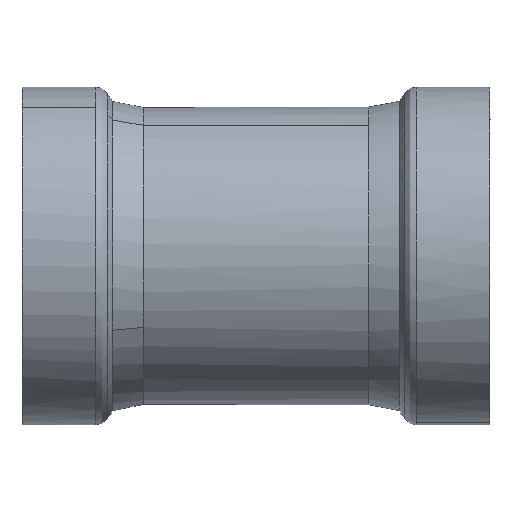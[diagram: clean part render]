
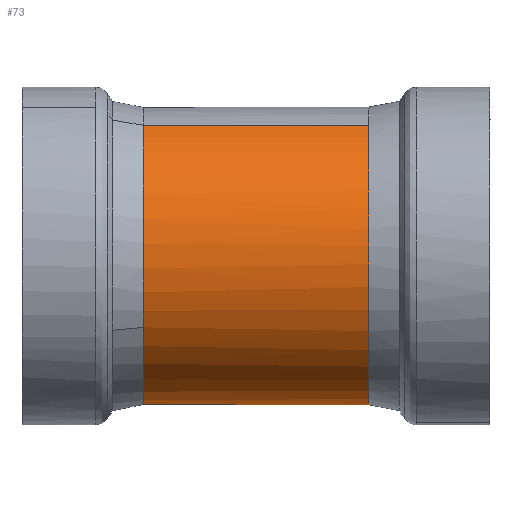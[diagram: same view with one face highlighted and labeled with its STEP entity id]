
A CAD part, front view. The second image highlights one B-rep face of the part: STEP entity #73.
In plain terms, the highlighted free-form (B-spline) face has degree [1, 2] with [2, 9] control points.
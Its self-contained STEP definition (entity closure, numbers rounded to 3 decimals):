
#73=ADVANCED_FACE('',(#157),#158,.T.);
#157=FACE_OUTER_BOUND('',#520,.T.);
#158=(B_SPLINE_SURFACE(1,2,((#522,#523,#524,#525,#526,#527,#528,#529,#530),(#531,#532,#533,#534,#535,#536,#537,#538,#539)),.UNSPECIFIED.,.F.,.T.,.F.)B_SPLINE_SURFACE_WITH_KNOTS((2,2),(3,2,2,2,3),(-0.134,1.381),(0.0,54.978,109.956,164.934,219.911),.UNSPECIFIED.)RATIONAL_B_SPLINE_SURFACE(((1.0,0.707,1.0,0.707,1.0,0.707,1.0,0.707,1.0),(1.0,0.707,1.0,0.707,1.0,0.707,1.0,0.707,1.0)))BOUNDED_SURFACE()REPRESENTATION_ITEM('')GEOMETRIC_REPRESENTATION_ITEM()SURFACE());
#520=EDGE_LOOP('',(#1046,#1047,#1048,#1049,#1050,#1051));
#522=CARTESIAN_POINT('',(-26.512,16.78,-30.715));
#523=CARTESIAN_POINT('',(-26.512,-13.935,-47.495));
#524=CARTESIAN_POINT('',(-26.512,-30.715,-16.78));
#525=CARTESIAN_POINT('',(-26.512,-47.495,13.935));
#526=CARTESIAN_POINT('',(-26.512,-16.78,30.715));
#527=CARTESIAN_POINT('',(-26.512,13.935,47.495));
#528=CARTESIAN_POINT('',(-26.512,30.715,16.78));
#529=CARTESIAN_POINT('',(-26.512,47.495,-13.935));
#530=CARTESIAN_POINT('',(-26.512,16.78,-30.715));
#531=CARTESIAN_POINT('',(26.512,16.78,-30.715));
#532=CARTESIAN_POINT('',(26.512,-13.935,-47.495));
#533=CARTESIAN_POINT('',(26.512,-30.715,-16.78));
#534=CARTESIAN_POINT('',(26.512,-47.495,13.935));
#535=CARTESIAN_POINT('',(26.512,-16.78,30.715));
#536=CARTESIAN_POINT('',(26.512,13.935,47.495));
#537=CARTESIAN_POINT('',(26.512,30.715,16.78));
#538=CARTESIAN_POINT('',(26.512,47.495,-13.935));
#539=CARTESIAN_POINT('',(26.512,16.78,-30.715));
#1046=ORIENTED_EDGE('',*,*,#1198,.T.);
#1047=ORIENTED_EDGE('',*,*,#1190,.T.);
#1048=ORIENTED_EDGE('',*,*,#1218,.T.);
#1049=ORIENTED_EDGE('',*,*,#1201,.T.);
#1050=ORIENTED_EDGE('',*,*,#1219,.T.);
#1051=ORIENTED_EDGE('',*,*,#1220,.T.);
#1190=EDGE_CURVE('',#1312,#1316,#1318,.T.);
#1198=EDGE_CURVE('',#1330,#1312,#1331,.T.);
#1201=EDGE_CURVE('',#1336,#1334,#1337,.T.);
#1218=EDGE_CURVE('',#1316,#1336,#1361,.T.);
#1219=EDGE_CURVE('',#1334,#1362,#1363,.T.);
#1220=EDGE_CURVE('',#1362,#1330,#1364,.T.);
#1312=VERTEX_POINT('',#1656);
#1316=VERTEX_POINT('',#1676);
#1318=(B_SPLINE_CURVE(2,(#1680,#1681,#1682,#1683,#1684,#1685,#1686),.UNSPECIFIED.,.F.,.F.)B_SPLINE_CURVE_WITH_KNOTS((3,2,2,3),(-3.142,-1.571,0.,1.571),.UNSPECIFIED.)RATIONAL_B_SPLINE_CURVE((1.0,0.707,1.0,0.707,1.0,0.707,1.0))BOUNDED_CURVE()REPRESENTATION_ITEM('')GEOMETRIC_REPRESENTATION_ITEM()CURVE());
#1330=VERTEX_POINT('',#1739);
#1331=B_SPLINE_CURVE_WITH_KNOTS('',1,(#1740,#1741),.UNSPECIFIED.,.F.,.F.,(2,2),(-1.381,0.134),.UNSPECIFIED.);
#1334=VERTEX_POINT('',#1757);
#1336=VERTEX_POINT('',#1772);
#1337=B_SPLINE_CURVE_WITH_KNOTS('',1,(#1773,#1774),.UNSPECIFIED.,.F.,.F.,(2,2),(-0.134,1.381),.UNSPECIFIED.);
#1361=(B_SPLINE_CURVE(2,(#1923,#1924,#1925,#1926,#1927,#1928,#1929),.UNSPECIFIED.,.F.,.F.)B_SPLINE_CURVE_WITH_KNOTS((3,2,2,3),(-3.142,-1.571,0.,1.571),.UNSPECIFIED.)RATIONAL_B_SPLINE_CURVE((1.0,0.707,1.0,0.707,1.0,0.707,1.0))BOUNDED_CURVE()REPRESENTATION_ITEM('')GEOMETRIC_REPRESENTATION_ITEM()CURVE());
#1362=VERTEX_POINT('',#1936);
#1363=(B_SPLINE_CURVE(2,(#1938,#1939,#1940,#1941,#1942),.UNSPECIFIED.,.F.,.F.)B_SPLINE_CURVE_WITH_KNOTS((3,2,3),(0.886,2.014,3.142),.UNSPECIFIED.)RATIONAL_B_SPLINE_CURVE((1.0,0.845,1.0,0.845,1.0))BOUNDED_CURVE()REPRESENTATION_ITEM('')GEOMETRIC_REPRESENTATION_ITEM()CURVE());
#1364=(B_SPLINE_CURVE(2,(#1950,#1951,#1952,#1953,#1954,#1955,#1956),.UNSPECIFIED.,.F.,.F.)B_SPLINE_CURVE_WITH_KNOTS((3,2,2,3),(-3.142,-1.799,-0.456,0.886),.UNSPECIFIED.)RATIONAL_B_SPLINE_CURVE((1.0,0.783,1.0,0.783,1.0,0.783,1.0))BOUNDED_CURVE()REPRESENTATION_ITEM('')GEOMETRIC_REPRESENTATION_ITEM()CURVE());
#1656=CARTESIAN_POINT('',(-26.512,-16.78,30.715));
#1676=CARTESIAN_POINT('',(-26.512,-30.715,-16.78));
#1680=CARTESIAN_POINT('',(-26.512,30.715,16.78));
#1681=CARTESIAN_POINT('',(-26.512,13.935,47.495));
#1682=CARTESIAN_POINT('',(-26.512,-16.78,30.715));
#1683=CARTESIAN_POINT('',(-26.512,-47.495,13.935));
#1684=CARTESIAN_POINT('',(-26.512,-30.715,-16.78));
#1685=CARTESIAN_POINT('',(-26.512,-13.935,-47.495));
#1686=CARTESIAN_POINT('',(-26.512,16.78,-30.715));
#1739=CARTESIAN_POINT('',(26.512,-16.78,30.715));
#1740=CARTESIAN_POINT('',(26.512,-16.78,30.715));
#1741=CARTESIAN_POINT('',(-26.512,-16.78,30.715));
#1757=CARTESIAN_POINT('',(26.512,16.78,-30.715));
#1772=CARTESIAN_POINT('',(-26.512,16.78,-30.715));
#1773=CARTESIAN_POINT('',(-26.512,16.78,-30.715));
#1774=CARTESIAN_POINT('',(26.512,16.78,-30.715));
#1923=CARTESIAN_POINT('',(-26.512,30.715,16.78));
#1924=CARTESIAN_POINT('',(-26.512,13.935,47.495));
#1925=CARTESIAN_POINT('',(-26.512,-16.78,30.715));
#1926=CARTESIAN_POINT('',(-26.512,-47.495,13.935));
#1927=CARTESIAN_POINT('',(-26.512,-30.715,-16.78));
#1928=CARTESIAN_POINT('',(-26.512,-13.935,-47.495));
#1929=CARTESIAN_POINT('',(-26.512,16.78,-30.715));
#1936=CARTESIAN_POINT('',(26.512,-34.405,6.424));
#1938=CARTESIAN_POINT('',(26.512,16.78,-30.715));
#1939=CARTESIAN_POINT('',(26.512,-2.642,-41.326));
#1940=CARTESIAN_POINT('',(26.512,-20.555,-28.328));
#1941=CARTESIAN_POINT('',(26.512,-38.468,-15.331));
#1942=CARTESIAN_POINT('',(26.512,-34.405,6.424));
#1950=CARTESIAN_POINT('',(26.512,-34.405,6.424));
#1951=CARTESIAN_POINT('',(26.512,-29.302,33.755));
#1952=CARTESIAN_POINT('',(26.512,-1.526,34.967));
#1953=CARTESIAN_POINT('',(26.512,26.251,36.179));
#1954=CARTESIAN_POINT('',(26.512,33.715,9.396));
#1955=CARTESIAN_POINT('',(26.512,41.179,-17.386));
#1956=CARTESIAN_POINT('',(26.512,16.78,-30.715));
